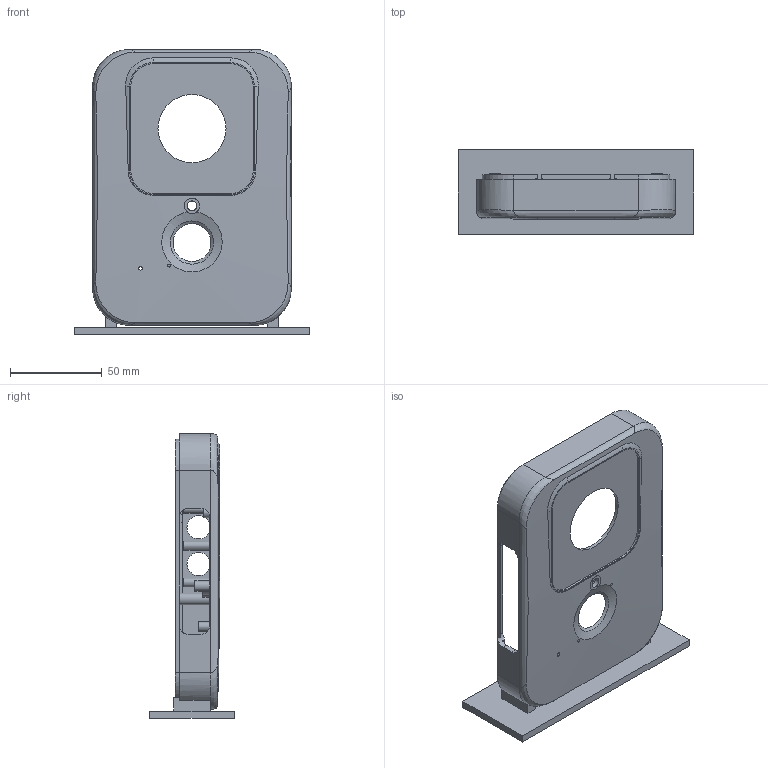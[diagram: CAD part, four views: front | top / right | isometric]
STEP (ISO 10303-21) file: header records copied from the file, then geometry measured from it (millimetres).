
FILE_DESCRIPTION(('Open CASCADE Model'),'2;1');
FILE_NAME('Open CASCADE Shape Model','2026-09-06T11:49:08',('Author'),( 'Open CASCADE'),'Open CASCADE STEP processor 7.8','build123d', 'Unknown');
FILE_SCHEMA(('AUTOMOTIVE_DESIGN { 1 0 10303 214 1 1 1 1 }'));
Length unit declared in the file: millimetre
Products named in the file (1): SOLID
Bounding box: 128 x 46 x 155 mm (x, y, z)
Volume: 84499.8 mm3; surface area: 67341.7 mm2
Topology: 1 solids, 1 shells, 332 faces, 884 edges, 589 vertices
Faces by surface type: plane 203, cylinder 110, bspline 17, sphere 1, cone 1
Full cylindrical faces by diameter (mm): 1.6 x4, 2 x14, 2.2 x4, 3.6 x8, 4.8 x5, 5 x2, 5.2 x1, 5.3 x1, 5.6 x6, 6.2 x1, 8.4 x1, 12.7 x2, 37 x1
Entity records: 26739 total; most frequent: CARTESIAN_POINT 9473, DIRECTION 3107, ORIENTED_EDGE 1768, PCURVE 1768, DEFINITIONAL_REPRESENTATION 1768, LINE 1730, VECTOR 1730, EDGE_CURVE 884
